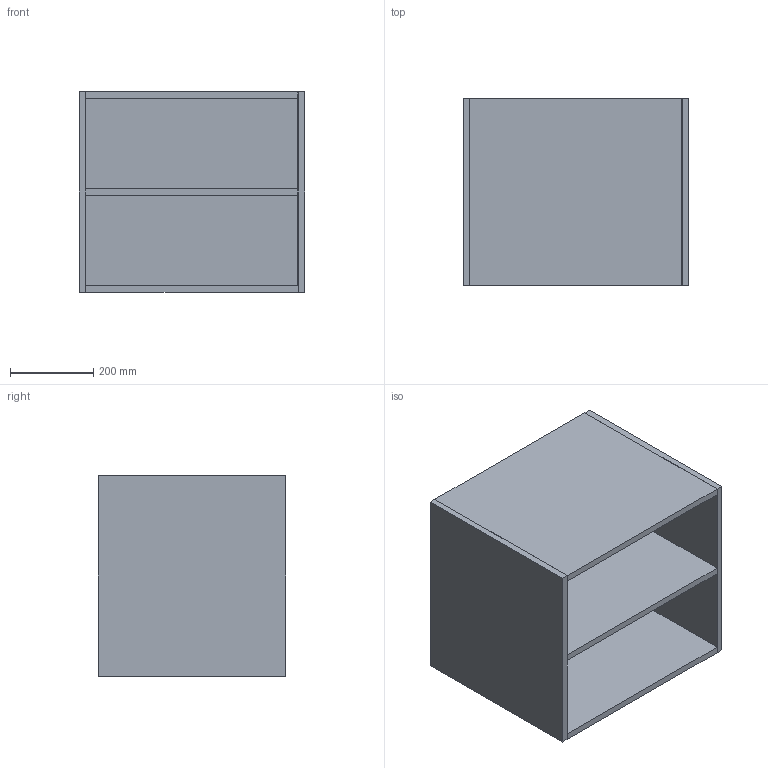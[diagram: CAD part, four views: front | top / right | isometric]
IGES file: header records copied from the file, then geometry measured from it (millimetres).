
Start section: Data from Parasolid IGES Translator 19.0.9, Copyright(c) 2006 Siemens PL M Software. All Rights Reserved.
Global section: file name: noorth-SI-H 48 D 47 W 54_8508.igs; native system: By Siemens PLM Incorporated; preprocessor: XPlus GENERIC/IGES 19.0.9; author: Noname; organization: Noname; date: 20200601.111451; units: metre
Bounding box: 540.01 x 448.06 x 480 mm (x, y, z)
Volume: 18458001.2 mm3; surface area: 2837564.2 mm2
Topology: 6 solids, 6 shells, 36 faces, 72 edges, 48 vertices
Faces by surface type: plane 36
